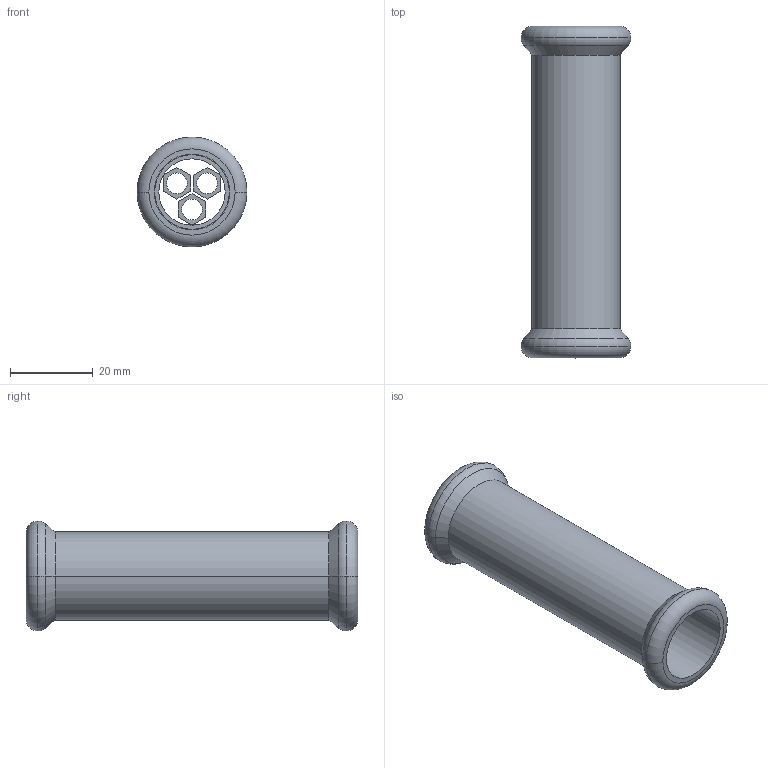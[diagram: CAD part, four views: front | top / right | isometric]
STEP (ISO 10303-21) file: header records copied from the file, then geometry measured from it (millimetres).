
FILE_DESCRIPTION(('OneSpaceDesigner STEP Export'),'2;1');
FILE_NAME('R2703 18x18.stp','2010-06-09T 9:01:54',(''),(''),'OneSpace Designer STEP processor for AP214 (Solid Model)','OneSpace Modeling 15.00A 14-Mar-2007 (C) CoCreate Software GmbH','');
FILE_SCHEMA(('AUTOMOTIVE_DESIGN { 1 0 10303 214 1 1 1 1 }'));
Length unit declared in the file: millimetre
Products named in the file (2): R2703_18x18
Assembly tree (1 placements, depth 2):
  R2703_18x18
    R2703_18x18
Bounding box: 26.5 x 80 x 26.5 mm (x, y, z)
Volume: 11904.3 mm3; surface area: 11234.4 mm2
Topology: 1 solids, 1 shells, 102 faces, 258 edges, 168 vertices
Faces by surface type: plane 60, cylinder 30, torus 8, cone 4
Entity records: 2831 total; most frequent: ORIENTED_EDGE 516, CARTESIAN_POINT 466, DIRECTION 430, EDGE_CURVE 258, VERTEX_POINT 168, VECTOR 166, LINE 166, AXIS2_PLACEMENT_3D 132
